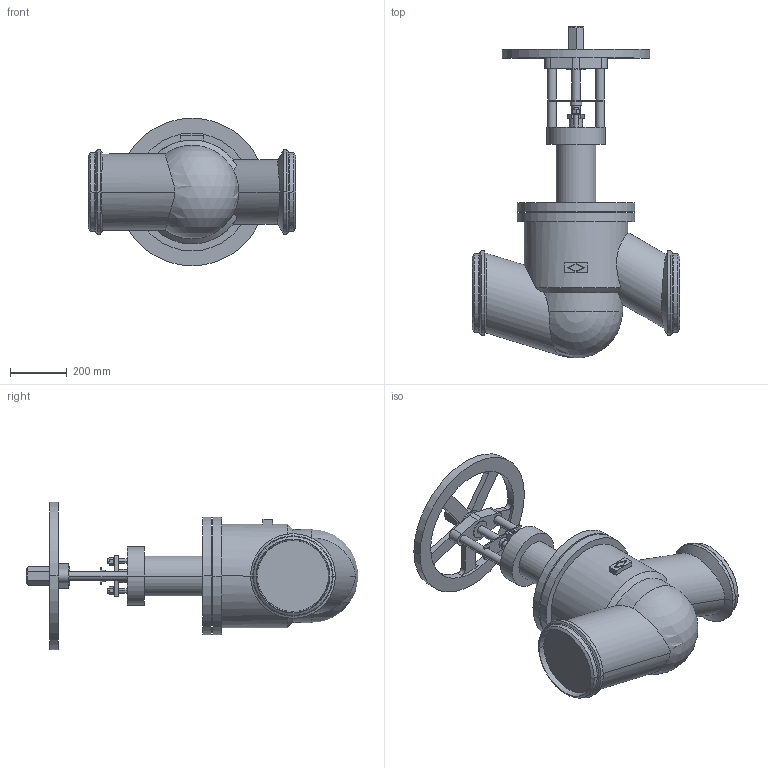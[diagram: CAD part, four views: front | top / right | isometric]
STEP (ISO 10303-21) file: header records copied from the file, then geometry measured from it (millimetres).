
FILE_DESCRIPTION(('Creo Elements/Direct Modeling STEP Export'),'2;1');
FILE_NAME('c000005025.stp','2012-09-20T10:11:54',(''),(''),'Creo Elements/Direct Modeling STEP processor for AP203 (Solid Model)','Creo Elements/Direct Modeling 17.0D 15-Jul-2011 (C) Parametric Technology GmbH','');
FILE_SCHEMA(('CONFIG_CONTROL_DESIGN'));
Length unit declared in the file: millimetre
Products named in the file (1): 1
Bounding box: 730 x 1168.67 x 520 mm (x, y, z)
Volume: 80927769.2 mm3; surface area: 2016118.8 mm2
Topology: 1 solids, 1 shells, 227 faces, 583 edges, 379 vertices
Faces by surface type: plane 113, cylinder 89, cone 20, torus 4, sphere 1
Entity records: 7193 total; most frequent: CARTESIAN_POINT 1695, ORIENTED_EDGE 1162, DIRECTION 1090, EDGE_CURVE 581, AXIS2_PLACEMENT_3D 381, VERTEX_POINT 379, VECTOR 328, LINE 328
